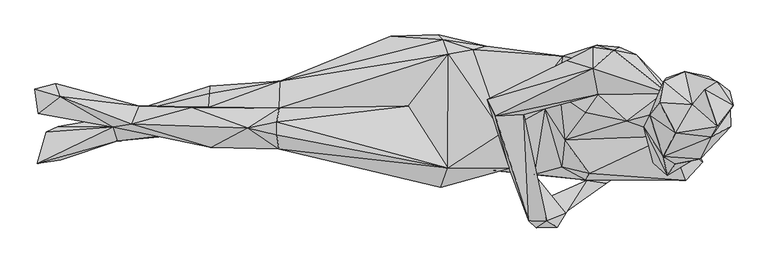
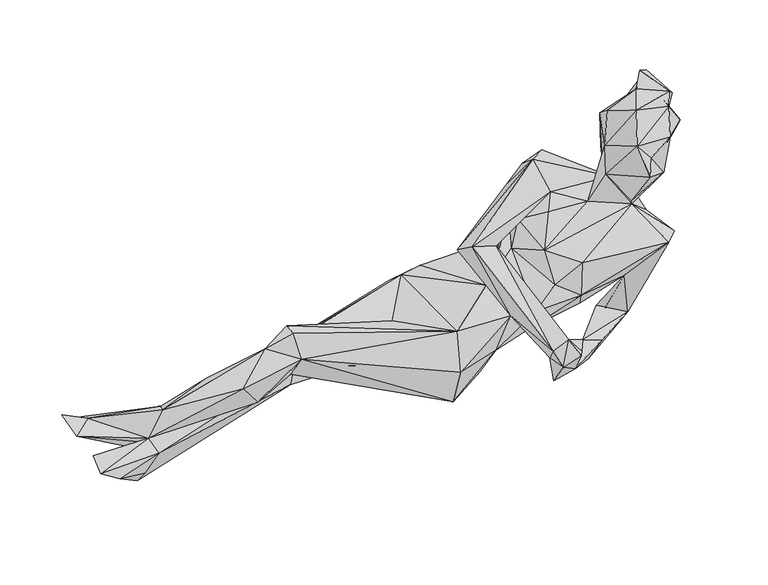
"""IFC4 building model written with IfcOpenShell, lengths in millimetres: geographic element geometry, Enscape AssetDefinition - Asya, tumbada : Enscape AssetDefinition - Asya, tumbada."""

from ifc_helpers import new_model, si_unit, origin, place, context, project, spatial, faceted_brep, source, transform, mapped, element, save


def geographic_element_0bc7d26b(model_context):
    return source(origin(), model_context, "Body", "Brep", [
        faceted_brep([(-297.3949909, 1.012, 265.5249834), (81.3790038, -100.2289951, 179.4800013), (-6.4739999, 37.0719992, 156.2889963), (200.9879947, -22.2839992, 214.9569988), (82.5039968, 151.3019949, 179.5700043), (-293.0600047, -58.0219962, 210.0979984), (-297.4749804, -27.8299991, 263.2260025), (217.1039879, -101.3549939, 175.0690043), (65.7169968, -142.9769993, 100.7319987), (-292.0449972, 31.8560004, 183.3840013), (-360.7980013, -11.9949998, 233.8699847), (-484.6589863, 33.3900005, 170.2959985), (-617.1759963, -2.933, 152.9269964), (-441.6749775, -54.5889996, 179.7059923), (-600.5529761, 36.6499983, 132.2599947), (-775.644958, 57.4139953, 148.1029987), (-659.060955, -9.7519998, 94.4599956), (-794.8870063, 79.3139935, 117.866002), (-676.5779853, 46.908997, 42.9470018), (-448.296994, 33.2500003, 134.5839947), (-654.5680165, 13.1399995, 68.2180002), (-785.2660418, 86.8579969, 137.082994), (-824.2949247, 20.2510003, 140.0129944), (-831.635952, 74.0419999, 167.6349938), (-693.1070089, -20.5699988, -2.994), (-780.0219655, -9.0229996, 50.2769984), (-446.6460049, 64.2549992, 121.8879968), (-444.9949861, 80.4650038, 87.5899941), (-826.5169859, -90.2929977, 105.9729904), (-806.2869906, -20.4889979, 104.5229957), (-649.5899558, -40.1879959, 68.810001), (-774.2879987, -83.1469968, 69.9279979), (-277.1549821, 2.4639999, 147.9589939), (-400.4330039, -48.7329997, 125.5419999), (-690.2580261, -49.4379997, 33.8819996), (-292.6810086, -6.5699997, 109.7269952), (-441.6929781, 37.2329988, 40.5950025), (-278.6409855, 62.514998, 83.4969953), (-110.1459935, 52.8289974, 59.5650002), (-289.2560065, 91.8959975, 132.7779889), (58.3430007, 96.3319913, -11.5679996), (-45.6050001, 191.1669821, 65.4390007), (15.6229995, 27.3509994, 32.1719982), (138.5689974, 152.7449936, 31.0859978), (94.4890007, -62.8819987, -1.852), (152.7689993, 102.4190038, -5.3380001), (-309.2139959, -36.5520008, 161.1269861), (50.0549972, -137.0559931, 21.9849981), (161.8779898, -63.0130023, 21.0759994), (197.2769946, -49.8579964, 64.8669973), (191.1949813, 118.7600046, 70.8239973), (176.8499911, -106.0589924, 98.2389972), (272.0969915, -115.090996, 174.6579856), (384.4689727, -126.5400052, 187.0599836), (302.6849926, -165.2969867, 118.7810004), (259.9599957, -217.306003, 134.6520036), (186.3289922, 14.8179997, 302.3850024), (168.4059799, 50.4949987, 278.6380053), (261.4299953, -197.9669929, 103.9609984), (342.2069848, -201.3489902, 95.7709923), (387.66101, -127.6340038, 65.6909943), (268.896997, -204.5649886, 43.0490002), (276.2570083, -233.2329899, 95.325999), (384.4369948, -155.4989964, 32.7329971), (317.6909983, -215.3409868, 66.0249963), (322.7919936, -231.3989997, 108.7149978), (299.9480069, -216.9969827, 150.8069932), (431.3769937, -135.0329965, 54.7009967), (248.6229986, 17.5889991, 281.069994), (294.9970067, 30.3029977, 250.9499788), (332.5310051, -98.4239951, 216.6679949), (339.425981, -38.217999, 271.8600035), (323.5799968, 90.2009979, 279.8419893), (328.8840055, 61.0419959, 298.8349795), (394.0199912, -112.7729937, 263.3749843), (475.9979844, 3.2890001, 331.174016), (570.0910091, -29.2659998, 311.7659986), (384.9439919, 21.8230002, 323.7279952), (412.6299918, 61.6599992, 343.5499966), (401.026994, 119.2080006, 401.7669857), (567.8110123, 64.7709966, 329.2649686), (210.4960084, 38.2010005, 270.5940008), (343.7179923, 137.1340007, 340.8049941), (335.4130089, 147.5829929, 194.4770068), (137.545988, 161.1230075, 180.3129911), (368.5150146, 140.6919956, 298.1219888), (401.7829895, 167.1979874, 360.9669805), (410.1309776, 171.1190045, 273.8389969), (166.0259962, 169.7220057, 136.5139931), (360.0690067, 141.7889893, 157.6129943), (451.2139857, 156.6909999, 237.0299846), (459.8589838, 167.5060093, 293.4639752), (447.9709864, 160.3440046, 385.2559924), (497.8929758, 150.473997, 313.0879998), (479.1439772, 118.5309961, 175.4630059), (604.6879888, 40.0220007, 309.0600073), (544.623971, 55.6849986, 382.0009828), (632.480979, 64.2810017, 368.9929843), (610.6109619, -23.3689994, 277.8660059), (577.0940185, 37.1289998, 224.2390066), (394.9480057, 78.1759992, 106.1219946), (527.3109674, -69.7309971, 157.288), (597.753942, -26.1439979, 195.2379942), (644.5310116, -86.8899971, 246.6710061), (519.2129612, 17.8219993, 4.2229998), (549.6500134, -16.8070011, 10.5009992), (607.3830128, -127.9629916, 253.5730004), (499.6579885, 6.3779997, 39.8449972), (545.0639725, -54.7259971, 43.375995), (417.9329872, -62.8319979, 116.618), (60.209997, 194.2889988, 100.9769961), (71.3570043, 183.7669909, 149.0559876), (617.659986, -35.5580002, 382.5209737), (535.6069803, -88.8490006, 367.742002), (619.1509962, -85.0759968, 413.5919809), (513.7599707, -10.0119989, 399.0829885), (659.9990129, -12.8429998, 414.9739742), (657.2450399, 101.5679985, 442.6520169), (563.5419488, 98.1840044, 391.8849826), (706.3629627, -8.2489997, 479.2559743), (638.8579607, -80.2369937, 499.6249974), (703.7560344, 69.7459951, 493.3869839), (604.6540141, 113.1859943, 457.7439725), (557.9929948, 92.0009986, 488.7300134), (527.099967, 16.2220001, 456.8059742), (620.9269762, 40.4569991, 562.5669956), (549.0399599, 43.9709984, 527.9479623), (676.248014, 90.9449905, 564.0379786), (584.7119689, -23.1169984, 555.381), (676.8360138, -9.0330001, 566.1270022), (649.0149498, 72.9710013, 584.0069652), (557.4820042, -75.2689987, 500.0469685), (663.1269455, -31.8280011, 545.1839566), (711.5280032, 37.2639969, 522.044003), (583.6729407, -91.9400007, 469.0560102), (565.8529997, -116.775997, 437.5659823)], [[[0, 1, 2]], [[1, 3, 4]], [[5, 1, 6]], [[1, 4, 2]], [[7, 1, 8]], [[3, 1, 7]], [[6, 1, 0]], [[5, 8, 1]], [[0, 2, 9]], [[9, 2, 4]], [[0, 10, 6]], [[9, 10, 0]], [[10, 5, 6]], [[11, 12, 10]], [[13, 5, 10]], [[12, 13, 10]], [[11, 10, 9]], [[11, 14, 12]], [[15, 12, 14]], [[15, 16, 12]], [[16, 13, 12]], [[9, 14, 11]], [[17, 14, 18]], [[9, 19, 14]], [[18, 14, 20]], [[20, 14, 19]], [[15, 14, 21]], [[21, 14, 17]], [[17, 18, 22]], [[18, 20, 22]], [[17, 22, 23]], [[21, 17, 23]], [[21, 23, 15]], [[22, 15, 23]], [[22, 16, 15]], [[16, 22, 20]], [[20, 24, 25]], [[20, 25, 16]], [[26, 20, 19]], [[27, 20, 26]], [[27, 24, 20]], [[28, 25, 24]], [[29, 16, 25]], [[28, 29, 25]], [[30, 28, 31]], [[16, 29, 28]], [[30, 16, 28]], [[31, 28, 24]], [[32, 16, 30]], [[16, 33, 13]], [[16, 32, 33]], [[34, 24, 30]], [[30, 24, 35]], [[30, 31, 34]], [[32, 30, 35]], [[31, 24, 34]], [[35, 24, 36]], [[27, 36, 24]], [[37, 35, 36]], [[35, 38, 32]], [[37, 38, 35]], [[37, 36, 27]], [[26, 39, 27]], [[37, 27, 39]], [[40, 37, 41]], [[39, 41, 37]], [[38, 37, 40]], [[40, 42, 38]], [[32, 38, 42]], [[43, 40, 41]], [[44, 42, 40]], [[44, 40, 45]], [[45, 40, 43]], [[32, 42, 44]], [[32, 46, 33]], [[46, 32, 44]], [[47, 44, 48]], [[46, 44, 47]], [[48, 44, 45]], [[49, 45, 50]], [[45, 43, 50]], [[48, 45, 49]], [[51, 48, 49]], [[47, 48, 51]], [[5, 47, 8]], [[46, 47, 5]], [[51, 8, 47]], [[5, 33, 46]], [[13, 33, 5]], [[52, 7, 51]], [[52, 51, 53]], [[53, 51, 49]], [[7, 8, 51]], [[7, 52, 54]], [[55, 56, 7]], [[3, 7, 57]], [[57, 7, 56]], [[58, 55, 7]], [[58, 7, 54]], [[54, 52, 59]], [[59, 60, 54]], [[60, 58, 54]], [[60, 61, 58]], [[62, 58, 61]], [[58, 62, 55]], [[63, 61, 60]], [[61, 64, 62]], [[61, 63, 64]], [[65, 66, 62]], [[55, 62, 66]], [[64, 65, 62]], [[64, 60, 59]], [[59, 65, 64]], [[67, 60, 64]], [[63, 67, 64]], [[59, 66, 65]], [[59, 52, 66]], [[52, 68, 66]], [[55, 66, 68]], [[52, 69, 3]], [[70, 69, 52]], [[52, 3, 68]], [[53, 70, 52]], [[71, 69, 70]], [[72, 3, 69]], [[73, 72, 69]], [[69, 71, 73]], [[71, 70, 74]], [[53, 74, 70]], [[75, 71, 76]], [[77, 73, 71]], [[71, 75, 77]], [[74, 76, 71]], [[78, 68, 73]], [[72, 73, 68]], [[73, 77, 78]], [[75, 78, 77]], [[78, 79, 56]], [[78, 80, 79]], [[78, 56, 68]], [[80, 78, 75]], [[56, 55, 68]], [[81, 68, 3]], [[81, 72, 68]], [[57, 56, 79]], [[72, 57, 82]], [[72, 81, 57]], [[82, 57, 79]], [[81, 3, 57]], [[83, 84, 3]], [[83, 3, 72]], [[4, 3, 84]], [[83, 72, 85]], [[85, 72, 82]], [[85, 82, 86]], [[86, 82, 79]], [[86, 87, 85]], [[85, 87, 83]], [[88, 84, 83]], [[83, 87, 89]], [[89, 88, 83]], [[90, 89, 87]], [[90, 87, 91]], [[91, 87, 92]], [[87, 86, 92]], [[86, 79, 92]], [[79, 80, 92]], [[93, 92, 80]], [[91, 92, 93]], [[90, 91, 93]], [[90, 94, 89]], [[93, 94, 90]], [[80, 95, 93]], [[93, 95, 94]], [[80, 75, 96]], [[96, 97, 80]], [[95, 80, 97]], [[95, 76, 98]], [[76, 95, 97]], [[99, 94, 95]], [[98, 99, 95]], [[94, 100, 89]], [[94, 99, 100]], [[100, 99, 101]], [[101, 99, 102]], [[102, 99, 103]], [[98, 103, 99]], [[98, 76, 103]], [[104, 103, 105]], [[76, 106, 103]], [[106, 105, 103]], [[104, 102, 103]], [[104, 101, 102]], [[63, 104, 105]], [[104, 63, 107]], [[104, 107, 101]], [[105, 108, 63]], [[105, 106, 108]], [[106, 76, 74]], [[53, 106, 74]], [[108, 106, 101]], [[101, 106, 53]], [[60, 67, 108]], [[101, 107, 108]], [[60, 108, 107]], [[63, 108, 67]], [[63, 60, 107]], [[101, 53, 109]], [[109, 100, 101]], [[53, 49, 109]], [[49, 100, 109]], [[49, 50, 100]], [[89, 100, 50]], [[50, 88, 89]], [[88, 50, 43]], [[43, 110, 88]], [[111, 88, 110]], [[111, 84, 88]], [[43, 41, 110]], [[111, 110, 41]], [[4, 84, 111]], [[39, 4, 111]], [[39, 111, 41]], [[4, 39, 9]], [[19, 9, 39]], [[26, 19, 39]], [[97, 112, 76]], [[113, 76, 114]], [[76, 113, 115]], [[112, 114, 76]], [[75, 76, 115]], [[97, 116, 112]], [[114, 112, 116]], [[117, 116, 97]], [[118, 117, 97]], [[96, 118, 97]], [[116, 119, 120]], [[117, 119, 116]], [[114, 116, 120]], [[119, 117, 121]], [[122, 121, 117]], [[118, 122, 117]], [[118, 123, 122]], [[118, 96, 123]], [[75, 124, 96]], [[123, 96, 124]], [[122, 123, 125]], [[123, 124, 126]], [[123, 126, 125]], [[121, 122, 127]], [[127, 122, 125]], [[128, 129, 125]], [[126, 128, 125]], [[130, 125, 129]], [[127, 125, 130]], [[124, 128, 126]], [[124, 131, 128]], [[131, 132, 128]], [[132, 129, 128]], [[129, 133, 130]], [[129, 132, 133]], [[127, 130, 133]], [[133, 121, 127]], [[132, 121, 133]], [[132, 131, 120]], [[119, 132, 120]], [[119, 121, 132]], [[131, 134, 120]], [[114, 120, 134]], [[114, 134, 135]], [[131, 135, 134]], [[135, 113, 114]], [[135, 115, 113]], [[131, 115, 135]], [[124, 115, 131]], [[115, 124, 75]]]),
    ])


if __name__ == "__main__":
    model = new_model("IFC4")
    model_context = context("Model", 3, world=origin())
    ifc_project = project(units=[si_unit("LENGTHUNIT", "METRE", prefix="MILLI")], contexts=[model_context])
    site = spatial("IfcSite", under=ifc_project)
    building = spatial("IfcBuilding", under=site)
    placement = place(None, origin())
    geographic_element_shape = geographic_element_0bc7d26b(model_context)
    element("IfcGeographicElement", 1, ObjectType="Enscape AssetDefinition - Asya, tumbada : Enscape AssetDefinition - Asya, tumbada", at=placement, inside=building, context=model_context, shape_type="MappedRepresentation", body=[
        mapped(geographic_element_shape, transform((0.0, 0.0, 0.0), x_axis=(1.0, 0.0, 0.0), y_axis=(0.0, 1.0, 0.0), z_axis=(0.0, 0.0, 1.0))),
    ])
    save(model, "model.ifc")
